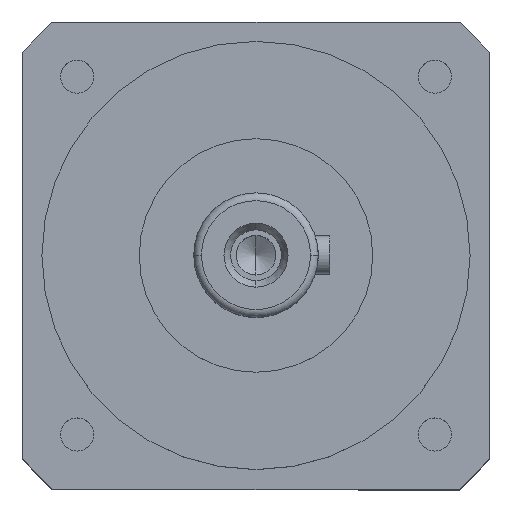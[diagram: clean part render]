
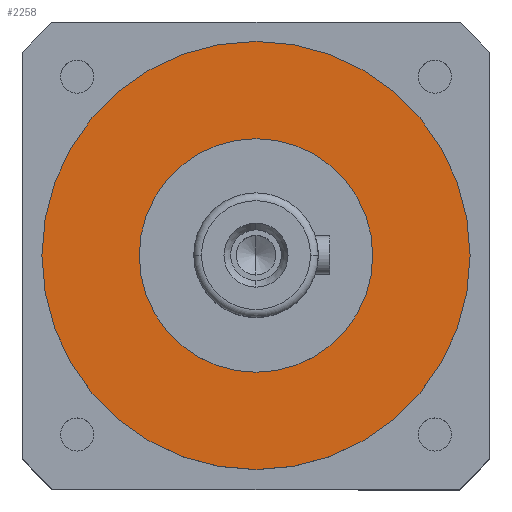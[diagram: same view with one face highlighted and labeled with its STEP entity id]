
A CAD part, top view. The second image highlights one B-rep face of the part: STEP entity #2258.
In plain terms, the highlighted planar face has unit normal (0, 0, 1).
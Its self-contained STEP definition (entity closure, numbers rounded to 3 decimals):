
#2258 = ADVANCED_FACE ( 'NONE', ( #43229, #11129 ), #11865, .F. ) ;
#2691 = CIRCLE ( 'NONE', #29370, 30. ) ;
#5172 = AXIS2_PLACEMENT_3D ( 'NONE', #11807, #11963, #11975 ) ;
#5429 = AXIS2_PLACEMENT_3D ( 'NONE', #30808, #30781, #30772 ) ;
#9261 = VERTEX_POINT ( 'NONE', #10347 ) ;
#10347 = CARTESIAN_POINT ( 'NONE',  ( -55., 0., -52. ) ) ;
#10846 = EDGE_CURVE ( 'NONE', #32809, #15131, #37138, .T. ) ;
#11129 = FACE_OUTER_BOUND ( 'NONE', #32696, .T. ) ;
#11807 = CARTESIAN_POINT ( 'NONE',  ( 0., 30., -52. ) ) ;
#11865 = PLANE ( 'NONE',  #5172 ) ;
#11963 = DIRECTION ( 'NONE',  ( 0., 0., -1. ) ) ;
#11975 = DIRECTION ( 'NONE',  ( -1., 0., 0. ) ) ;
#12377 = EDGE_CURVE ( 'NONE', #9261, #25078, #43047, .T. ) ;
#13726 = EDGE_CURVE ( 'NONE', #25078, #9261, #20930, .T. ) ;
#13867 = EDGE_LOOP ( 'NONE', ( #23395, #30383 ) ) ;
#13882 = DIRECTION ( 'NONE',  ( 0., 0., 1. ) ) ;
#15131 = VERTEX_POINT ( 'NONE', #27496 ) ;
#20930 = CIRCLE ( 'NONE', #32641, 55. ) ;
#22659 = CARTESIAN_POINT ( 'NONE',  ( 55., 0., -52. ) ) ;
#23395 = ORIENTED_EDGE ( 'NONE', *, *, #34994, .F. ) ;
#25038 = ORIENTED_EDGE ( 'NONE', *, *, #12377, .F. ) ;
#25078 = VERTEX_POINT ( 'NONE', #22659 ) ;
#25347 = CARTESIAN_POINT ( 'NONE',  ( -30., 0., -52. ) ) ;
#27496 = CARTESIAN_POINT ( 'NONE',  ( 30., 0., -52. ) ) ;
#29370 = AXIS2_PLACEMENT_3D ( 'NONE', #34390, #13882, #37724 ) ;
#30099 = DIRECTION ( 'NONE',  ( 1., 0., 0. ) ) ;
#30156 = DIRECTION ( 'NONE',  ( 0., 0., -1. ) ) ;
#30213 = CARTESIAN_POINT ( 'NONE',  ( 0., 0., -52. ) ) ;
#30383 = ORIENTED_EDGE ( 'NONE', *, *, #10846, .F. ) ;
#30772 = DIRECTION ( 'NONE',  ( 1., 0., 0. ) ) ;
#30781 = DIRECTION ( 'NONE',  ( 0., 0., 1. ) ) ;
#30808 = CARTESIAN_POINT ( 'NONE',  ( 0., 0., -52. ) ) ;
#31532 = ORIENTED_EDGE ( 'NONE', *, *, #13726, .F. ) ;
#32641 = AXIS2_PLACEMENT_3D ( 'NONE', #30213, #30156, #30099 ) ;
#32696 = EDGE_LOOP ( 'NONE', ( #31532, #25038 ) ) ;
#32809 = VERTEX_POINT ( 'NONE', #25347 ) ;
#34390 = CARTESIAN_POINT ( 'NONE',  ( 0., 0., -52. ) ) ;
#34994 = EDGE_CURVE ( 'NONE', #15131, #32809, #2691, .T. ) ;
#37138 = CIRCLE ( 'NONE', #5429, 30. ) ;
#37724 = DIRECTION ( 'NONE',  ( 1., 0., 0. ) ) ;
#41494 = DIRECTION ( 'NONE',  ( 1., 0., 0. ) ) ;
#41585 = DIRECTION ( 'NONE',  ( 0., 0., -1. ) ) ;
#41769 = CARTESIAN_POINT ( 'NONE',  ( 0., 0., -52. ) ) ;
#43047 = CIRCLE ( 'NONE', #43804, 55. ) ;
#43229 = FACE_BOUND ( 'NONE', #13867, .T. ) ;
#43804 = AXIS2_PLACEMENT_3D ( 'NONE', #41769, #41585, #41494 ) ;
